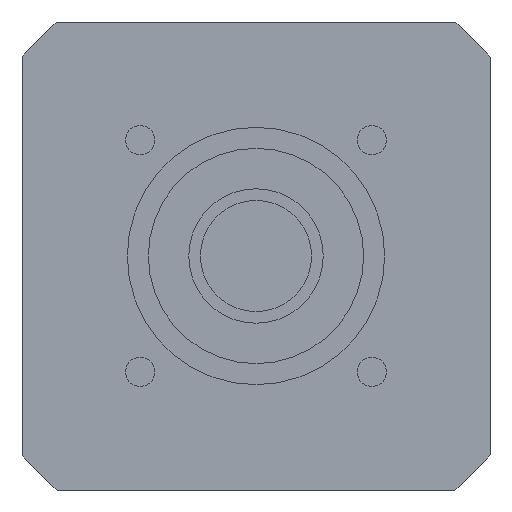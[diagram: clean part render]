
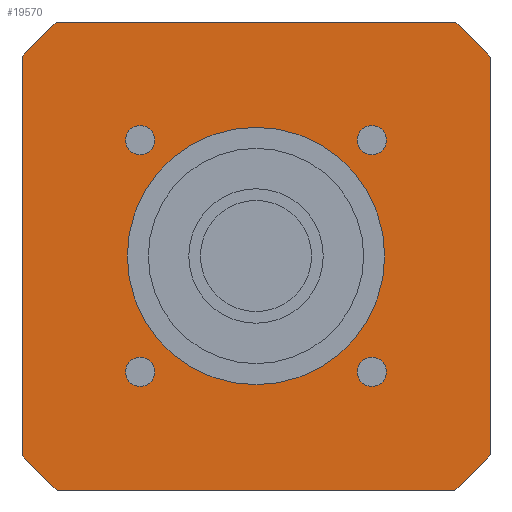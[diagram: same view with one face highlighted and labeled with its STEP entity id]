
A CAD part, left-side view. The second image highlights one B-rep face of the part: STEP entity #19570.
In plain terms, the highlighted planar face has unit normal (-1, 0, 0) as drawn and (0, 0, -1) by its records, which use the part's own axes.
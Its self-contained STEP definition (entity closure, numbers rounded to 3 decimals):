
#13890=CARTESIAN_POINT('',(-34.004,-40.,-44.));
#13900=VERTEX_POINT('',#13890);
#14050=CARTESIAN_POINT('',(34.004,-40.,-44.));
#14060=VERTEX_POINT('',#14050);
#14090=CARTESIAN_POINT('',(-40.,-40.,-44.));
#14100=DIRECTION('',(1.,0.,0.));
#14110=VECTOR('',#14100,1000.);
#14120=LINE('',#14090,#14110);
#14130=EDGE_CURVE('',#13900,#14060,#14120,.T.);
#14290=CARTESIAN_POINT('',(40.,-34.004,-44.));
#14300=VERTEX_POINT('',#14290);
#14330=CARTESIAN_POINT('',(0.,0.,
-44.));
#14340=DIRECTION('',(0.,0.,1.));
#14350=DIRECTION('',(1.,0.,0.));
#14360=AXIS2_PLACEMENT_3D('',#14330,#14340,#14350);
#14370=CIRCLE('',#14360,52.5);
#14380=EDGE_CURVE('',#14060,#14300,#14370,.T.);
#17910=CARTESIAN_POINT('',(40.,34.004,-44.));
#17920=VERTEX_POINT('',#17910);
#18000=CARTESIAN_POINT('',(34.004,40.,-44.));
#18010=VERTEX_POINT('',#18000);
#18040=CARTESIAN_POINT('',(0.,0.,
-44.));
#18050=DIRECTION('',(0.,0.,1.));
#18060=DIRECTION('',(1.,0.,0.));
#18070=AXIS2_PLACEMENT_3D('',#18040,#18050,#18060);
#18080=CIRCLE('',#18070,52.5);
#18090=EDGE_CURVE('',#17920,#18010,#18080,.T.);
#18140=CARTESIAN_POINT('',(40.,40.,-44.));
#18150=DIRECTION('',(0.,0.,1.));
#18160=DIRECTION('',(0.,1.,0.));
#18170=AXIS2_PLACEMENT_3D('',#18140,#18150,#18160);
#18180=PLANE('',#18170);
#18190=CARTESIAN_POINT('',(0.,0.,
-44.));
#18200=DIRECTION('',(0.,0.,1.));
#18210=DIRECTION('',(1.,0.,0.));
#18220=AXIS2_PLACEMENT_3D('',#18190,#18200,#18210);
#18230=CIRCLE('',#18220,52.5);
#18240=CARTESIAN_POINT('',(-34.004,40.,-44.));
#18250=VERTEX_POINT('',#18240);
#18260=CARTESIAN_POINT('',(-40.,34.004,-44.));
#18270=VERTEX_POINT('',#18260);
#18280=EDGE_CURVE('',#18250,#18270,#18230,.T.);
#18290=ORIENTED_EDGE('',*,*,#18280,.F.);
#18300=CARTESIAN_POINT('',(-40.,40.,-44.));
#18310=DIRECTION('',(0.,-1.,0.));
#18320=VECTOR('',#18310,1000.);
#18330=LINE('',#18300,#18320);
#18340=CARTESIAN_POINT('',(-40.,-34.004,-44.));
#18350=VERTEX_POINT('',#18340);
#18360=EDGE_CURVE('',#18270,#18350,#18330,.T.);
#18370=ORIENTED_EDGE('',*,*,#18360,.F.);
#18380=CARTESIAN_POINT('',(0.,0.,
-44.));
#18390=DIRECTION('',(0.,0.,1.));
#18400=DIRECTION('',(1.,0.,0.));
#18410=AXIS2_PLACEMENT_3D('',#18380,#18390,#18400);
#18420=CIRCLE('',#18410,52.5);
#18430=EDGE_CURVE('',#18350,#13900,#18420,.T.);
#18440=ORIENTED_EDGE('',*,*,#18430,.F.);
#18450=ORIENTED_EDGE('',*,*,#14130,.F.);
#18460=ORIENTED_EDGE('',*,*,#14380,.F.);
#18470=CARTESIAN_POINT('',(40.,-40.,-44.));
#18480=DIRECTION('',(0.,1.,0.));
#18490=VECTOR('',#18480,1000.);
#18500=LINE('',#18470,#18490);
#18510=EDGE_CURVE('',#14300,#17920,#18500,.T.);
#18520=ORIENTED_EDGE('',*,*,#18510,.F.);
#18530=ORIENTED_EDGE('',*,*,#18090,.F.);
#18540=CARTESIAN_POINT('',(40.,40.,-44.));
#18550=DIRECTION('',(-1.,0.,0.));
#18560=VECTOR('',#18550,1000.);
#18570=LINE('',#18540,#18560);
#18580=EDGE_CURVE('',#18010,#18250,#18570,.T.);
#18590=ORIENTED_EDGE('',*,*,#18580,.F.);
#18600=EDGE_LOOP('',(#18590,#18530,#18520,#18460,#18450,#18440,#18370,
#18290));
#18610=FACE_OUTER_BOUND('',#18600,.T.);
#18620=CARTESIAN_POINT('',(-19.799,19.799,-44.));
#18630=DIRECTION('',(0.,0.,-1.));
#18640=DIRECTION('',(1.,0.,0.));
#18650=AXIS2_PLACEMENT_3D('',#18620,#18630,#18640);
#18660=CIRCLE('',#18650,2.5);
#18670=CARTESIAN_POINT('',(-17.299,19.799,-44.));
#18680=VERTEX_POINT('',#18670);
#18690=CARTESIAN_POINT('',(-19.799,17.299,-44.));
#18700=VERTEX_POINT('',#18690);
#18710=EDGE_CURVE('',#18680,#18700,#18660,.T.);
#18720=ORIENTED_EDGE('',*,*,#18710,.F.);
#18730=CARTESIAN_POINT('',(-19.799,22.299,-44.));
#18740=VERTEX_POINT('',#18730);
#18750=EDGE_CURVE('',#18700,#18740,#18660,.T.);
#18760=ORIENTED_EDGE('',*,*,#18750,.F.);
#18770=EDGE_CURVE('',#18740,#18680,#18660,.T.);
#18780=ORIENTED_EDGE('',*,*,#18770,.F.);
#18790=EDGE_LOOP('',(#18780,#18760,#18720));
#18800=FACE_BOUND('',#18790,.T.);
#18810=CARTESIAN_POINT('',(19.799,19.799,-44.));
#18820=DIRECTION('',(0.,0.,-1.));
#18830=DIRECTION('',(1.,0.,0.));
#18840=AXIS2_PLACEMENT_3D('',#18810,#18820,#18830);
#18850=CIRCLE('',#18840,2.5);
#18860=CARTESIAN_POINT('',(22.299,19.799,-44.));
#18870=VERTEX_POINT('',#18860);
#18880=CARTESIAN_POINT('',(19.799,17.299,-44.));
#18890=VERTEX_POINT('',#18880);
#18900=EDGE_CURVE('',#18870,#18890,#18850,.T.);
#18910=ORIENTED_EDGE('',*,*,#18900,.F.);
#18920=CARTESIAN_POINT('',(19.799,22.299,-44.));
#18930=VERTEX_POINT('',#18920);
#18940=EDGE_CURVE('',#18890,#18930,#18850,.T.);
#18950=ORIENTED_EDGE('',*,*,#18940,.F.);
#18960=EDGE_CURVE('',#18930,#18870,#18850,.T.);
#18970=ORIENTED_EDGE('',*,*,#18960,.F.);
#18980=EDGE_LOOP('',(#18970,#18950,#18910));
#18990=FACE_BOUND('',#18980,.T.);
#19000=CARTESIAN_POINT('',(19.799,-19.799,-44.));
#19010=DIRECTION('',(0.,0.,-1.));
#19020=DIRECTION('',(1.,0.,0.));
#19030=AXIS2_PLACEMENT_3D('',#19000,#19010,#19020);
#19040=CIRCLE('',#19030,2.5);
#19050=CARTESIAN_POINT('',(22.299,-19.799,-44.));
#19060=VERTEX_POINT('',#19050);
#19070=CARTESIAN_POINT('',(19.799,-22.299,-44.));
#19080=VERTEX_POINT('',#19070);
#19090=EDGE_CURVE('',#19060,#19080,#19040,.T.);
#19100=ORIENTED_EDGE('',*,*,#19090,.F.);
#19110=CARTESIAN_POINT('',(19.799,-17.299,-44.));
#19120=VERTEX_POINT('',#19110);
#19130=EDGE_CURVE('',#19080,#19120,#19040,.T.);
#19140=ORIENTED_EDGE('',*,*,#19130,.F.);
#19150=EDGE_CURVE('',#19120,#19060,#19040,.T.);
#19160=ORIENTED_EDGE('',*,*,#19150,.F.);
#19170=EDGE_LOOP('',(#19160,#19140,#19100));
#19180=FACE_BOUND('',#19170,.T.);
#19190=CARTESIAN_POINT('',(-19.799,-19.799,-44.));
#19200=DIRECTION('',(0.,0.,-1.));
#19210=DIRECTION('',(1.,0.,0.));
#19220=AXIS2_PLACEMENT_3D('',#19190,#19200,#19210);
#19230=CIRCLE('',#19220,2.5);
#19240=CARTESIAN_POINT('',(-17.299,-19.799,-44.));
#19250=VERTEX_POINT('',#19240);
#19260=CARTESIAN_POINT('',(-19.799,-22.299,-44.));
#19270=VERTEX_POINT('',#19260);
#19280=EDGE_CURVE('',#19250,#19270,#19230,.T.);
#19290=ORIENTED_EDGE('',*,*,#19280,.F.);
#19300=CARTESIAN_POINT('',(-19.799,-17.299,-44.));
#19310=VERTEX_POINT('',#19300);
#19320=EDGE_CURVE('',#19270,#19310,#19230,.T.);
#19330=ORIENTED_EDGE('',*,*,#19320,.F.);
#19340=EDGE_CURVE('',#19310,#19250,#19230,.T.);
#19350=ORIENTED_EDGE('',*,*,#19340,.F.);
#19360=EDGE_LOOP('',(#19350,#19330,#19290));
#19370=FACE_BOUND('',#19360,.T.);
#19380=CARTESIAN_POINT('',(0.,0.,
-44.));
#19390=DIRECTION('',(0.,0.,1.));
#19400=DIRECTION('',(1.,0.,0.));
#19410=AXIS2_PLACEMENT_3D('',#19380,#19390,#19400);
#19420=CIRCLE('',#19410,22.);
#19430=CARTESIAN_POINT('',(0.,22.,-44.));
#19440=VERTEX_POINT('',#19430);
#19450=CARTESIAN_POINT('',(0.,-22.,-44.));
#19460=VERTEX_POINT('',#19450);
#19470=EDGE_CURVE('',#19440,#19460,#19420,.T.);
#19480=ORIENTED_EDGE('',*,*,#19470,.T.);
#19490=CARTESIAN_POINT('',(22.,0.,-44.));
#19500=VERTEX_POINT('',#19490);
#19510=EDGE_CURVE('',#19500,#19440,#19420,.T.);
#19520=ORIENTED_EDGE('',*,*,#19510,.T.);
#19530=EDGE_CURVE('',#19460,#19500,#19420,.T.);
#19540=ORIENTED_EDGE('',*,*,#19530,.T.);
#19550=EDGE_LOOP('',(#19540,#19520,#19480));
#19560=FACE_BOUND('',#19550,.T.);
#19570=ADVANCED_FACE('',(#18610,#18800,#18990,#19180,#19370,#19560),
#18180,.F.);
